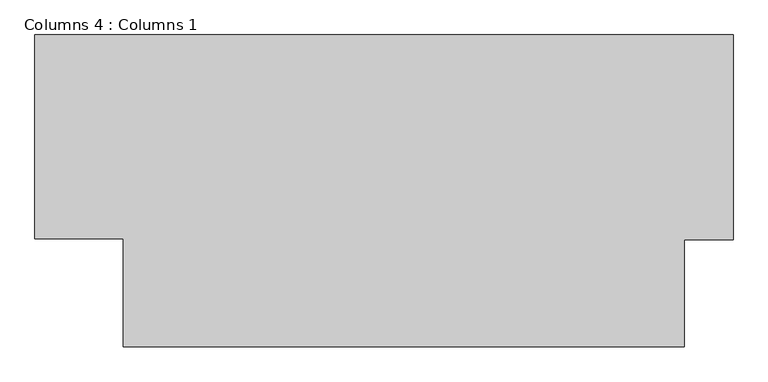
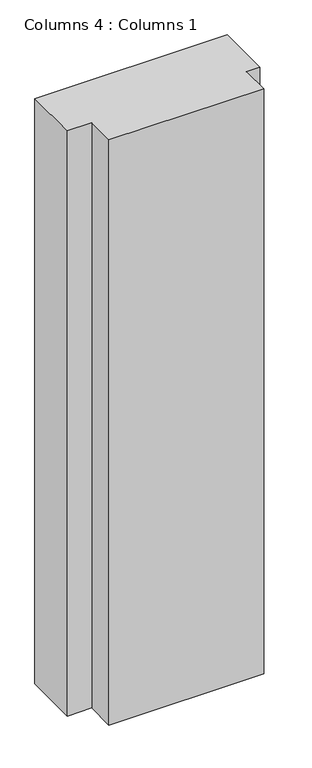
"""IFC4 building model written with IfcOpenShell, lengths in millimetres: column geometry, Columns 4 : Columns 1."""

from ifc_helpers import new_model, si_unit, origin, origin_with_axes, place, context, project, spatial, polyline, outline, extrude, source, transform, mapped, element, save


def columns_4_columns_1_804c0b7f(model_context):
    return source(origin(), model_context, "Body", "SweptSolid", [
        extrude(outline(polyline([(-36883.3406405, 87570.1591334), (-36883.3406405, 87236.5552348), (-36962.7525887, 87236.5552348), (-36962.7525887, 87062.1591334), (-37876.878199, 87062.1591334), (-37876.878199, 87237.6589024), (-38021.0695126, 87237.6589024), (-38021.0695126, 87570.1591334), (-36883.3406405, 87570.1591334)])), origin_with_axes(), (0.0, 0.0, 1.0), 3657.6),
    ])


if __name__ == "__main__":
    model = new_model("IFC4")
    model_context = context("Model", 3, world=origin())
    ifc_project = project(units=[si_unit("LENGTHUNIT", "METRE", prefix="MILLI")], contexts=[model_context])
    site = spatial("IfcSite", under=ifc_project)
    building = spatial("IfcBuilding", under=site)
    placement = place(None, origin())
    columns_4_columns_1_shape = columns_4_columns_1_804c0b7f(model_context)
    element("IfcColumn", 1, ObjectType="Columns 4 : Columns 1", at=placement, inside=building, context=model_context, shape_type="MappedRepresentation", body=[
        mapped(columns_4_columns_1_shape, transform((0.0, 0.0, 0.0), x_axis=(1.0, 0.0, 0.0), y_axis=(0.0, 1.0, 0.0), z_axis=(0.0, 0.0, 1.0))),
    ])
    save(model, "model.ifc")
